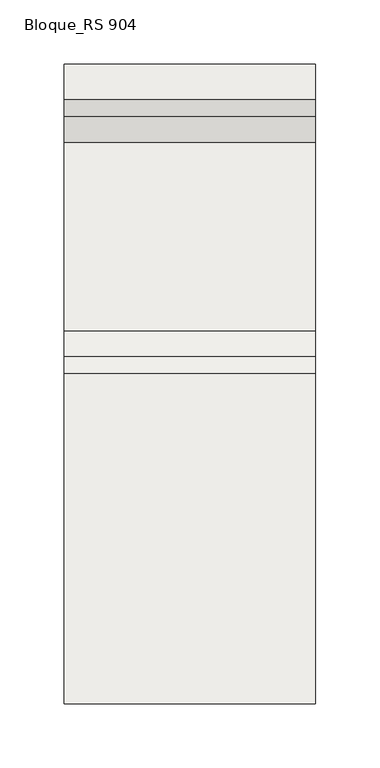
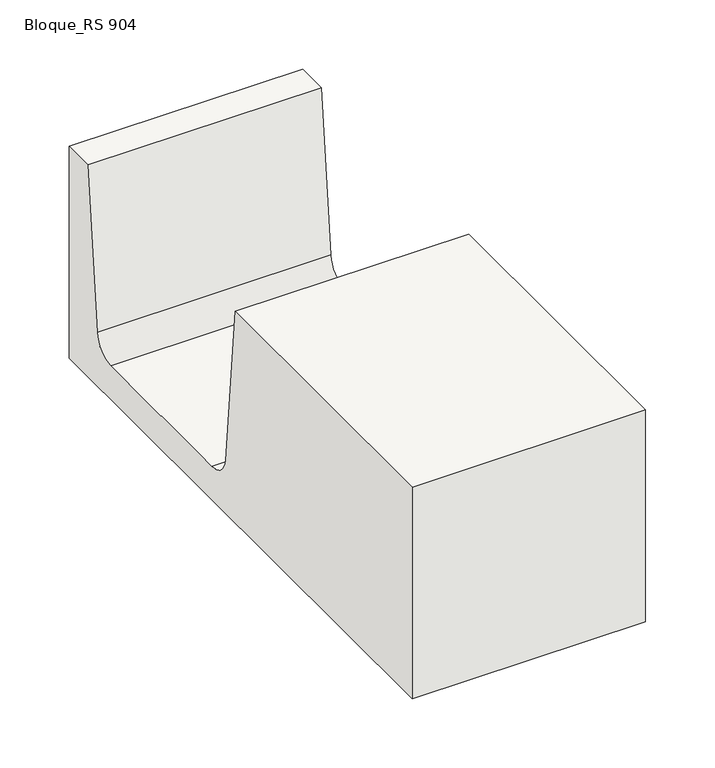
"""IFC4 building model written with IfcOpenShell, lengths in millimetres: slab geometry, ROSA GRES_RS 904 : Bloque_RS 904."""

from ifc_helpers import new_model, si_unit, point, frame, frame_2d, origin, place, context, project, spatial, polyline, circle_curve, trimmed, segment, composite_curve, outline, extrude, source, transform, mapped, element, save


def bloque_rs_904_4dadfa85(model_context):
    return source(origin(), model_context, "Body", "SweptSolid", [
        extrude(outline(composite_curve([segment(polyline([(12.836227, 188.7539108), (268.704852, 188.7539108), (282.2408556, 49.1487962)]), True, "CONTINUOUS"), segment(trimmed(circle_curve(frame_2d((301.8831862, 51.599206)), 19.7945866), [point((282.2408556, 49.1487962))], [point((302.2746005, 31.8084896))], True, "CARTESIAN"), True, "CONTINUOUS"), segment(polyline([(302.2746005, 31.8084896), (448.3978535, 31.8084896)]), True, "CONTINUOUS"), segment(trimmed(circle_curve(frame_2d((448.7892677, 51.599206)), 19.7945866), [point((448.3978535, 31.8084896))], [point((468.4315983, 49.1487962))], True, "CARTESIAN"), True, "CONTINUOUS"), segment(polyline([(468.4315983, 49.1487962), (481.967602, 188.7539108), (508.836227, 188.7539108), (508.836227, 1.7539108), (12.836227, 1.7539108), (12.836227, 188.7539108)]), True, "CONTINUOUS")], self_intersect=False)), frame((0.0, 0.0, 0.0), z_axis=(1.0, 0.0, 0.0), x_axis=(0.0, 1.0, 0.0)), (0.0, 0.0, 1.0), 195.0),
    ])


if __name__ == "__main__":
    model = new_model("IFC4")
    model_context = context("Model", 3, world=origin())
    ifc_project = project(units=[si_unit("LENGTHUNIT", "METRE", prefix="MILLI")], contexts=[model_context])
    site = spatial("IfcSite", under=ifc_project)
    building = spatial("IfcBuilding", under=site)
    placement = place(None, origin())
    bloque_rs_904_shape = bloque_rs_904_4dadfa85(model_context)
    element("IfcSlab", 1, ObjectType="ROSA GRES_RS 904 : Bloque_RS 904", at=placement, inside=building, context=model_context, shape_type="MappedRepresentation", body=[
        mapped(bloque_rs_904_shape, transform((0.0, 0.0, 0.0), x_axis=(1.0, 0.0, 0.0), y_axis=(0.0, 1.0, 0.0), z_axis=(0.0, 0.0, 1.0))),
    ])
    save(model, "model.ifc")
